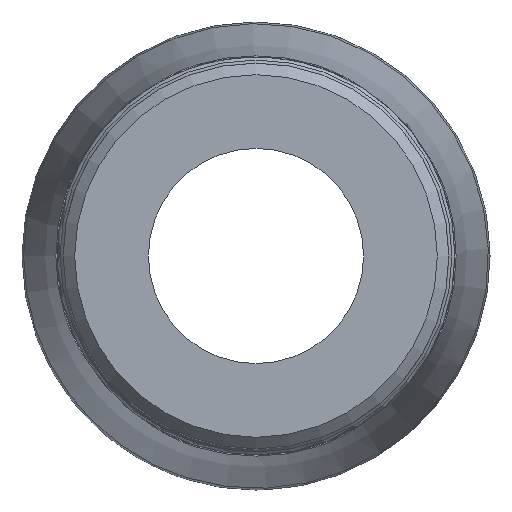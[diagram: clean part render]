
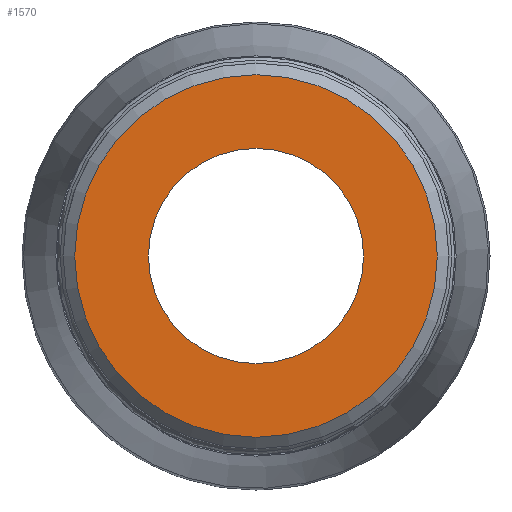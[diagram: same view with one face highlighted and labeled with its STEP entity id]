
A CAD part, left-side view. The second image highlights one B-rep face of the part: STEP entity #1570.
In plain terms, the highlighted planar face has unit normal (-1, 0, 0).
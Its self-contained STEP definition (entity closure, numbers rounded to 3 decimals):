
#261=PLANE('',#1723);
#351=FACE_BOUND('',#493,.T.);
#386=FACE_OUTER_BOUND('',#492,.T.);
#492=EDGE_LOOP('',(#1214));
#493=EDGE_LOOP('',(#1215));
#621=CIRCLE('',#1719,22.467);
#624=CIRCLE('',#1724,13.333);
#730=VERTEX_POINT('',#2783);
#733=VERTEX_POINT('',#2791);
#907=EDGE_CURVE('',#730,#730,#621,.T.);
#910=EDGE_CURVE('',#733,#733,#624,.T.);
#1214=ORIENTED_EDGE('',*,*,#907,.F.);
#1215=ORIENTED_EDGE('',*,*,#910,.T.);
#1570=ADVANCED_FACE('',(#386,#351),#261,.T.);
#1719=AXIS2_PLACEMENT_3D('',#2784,#2000,#2001);
#1723=AXIS2_PLACEMENT_3D('',#2790,#2008,#2009);
#1724=AXIS2_PLACEMENT_3D('',#2792,#2010,#2011);
#2000=DIRECTION('center_axis',(1.,0.,0.));
#2001=DIRECTION('ref_axis',(0.,-1.,0.));
#2008=DIRECTION('center_axis',(-1.,0.,0.));
#2009=DIRECTION('ref_axis',(0.,0.,1.));
#2010=DIRECTION('center_axis',(1.,0.,0.));
#2011=DIRECTION('ref_axis',(0.,0.,-1.));
#2783=CARTESIAN_POINT('',(0.,22.467,0.));
#2784=CARTESIAN_POINT('Origin',(0.,0.,0.));
#2790=CARTESIAN_POINT('Origin',(0.,23.902,0.));
#2791=CARTESIAN_POINT('',(0.,13.333,0.));
#2792=CARTESIAN_POINT('Origin',(0.,0.,0.));
